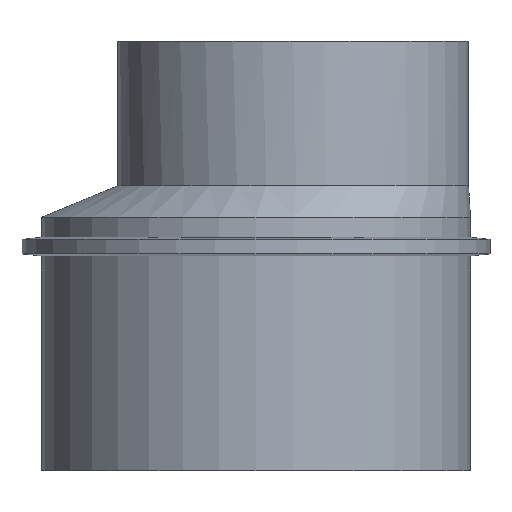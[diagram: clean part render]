
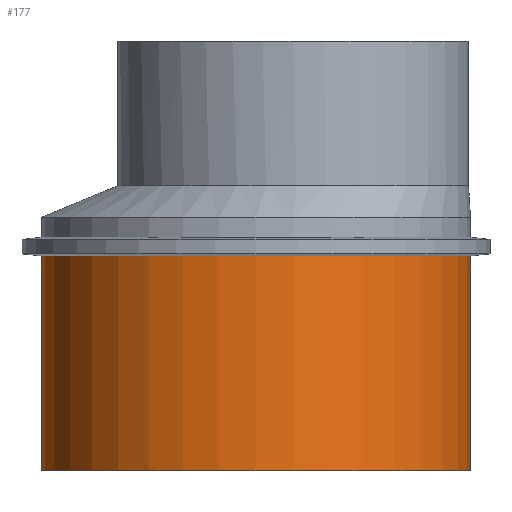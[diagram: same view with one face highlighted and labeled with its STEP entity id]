
A CAD part, front view. The second image highlights one B-rep face of the part: STEP entity #177.
In plain terms, the highlighted cylindrical face has radius 55 mm (diameter 110 mm), a full revolution.
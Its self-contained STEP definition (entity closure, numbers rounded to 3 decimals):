
#26=FACE_BOUND($,#57,.T.);
#40=FACE_OUTER_BOUND($,#56,.T.);
#56=EDGE_LOOP($,(#141));
#57=EDGE_LOOP($,(#142));
#66=CIRCLE($,#188,55.);
#78=CIRCLE($,#205,55.);
#82=VERTEX_POINT($,#271);
#94=VERTEX_POINT($,#340);
#98=EDGE_CURVE($,#82,#82,#66,.T.);
#112=EDGE_CURVE($,#94,#94,#78,.T.);
#141=ORIENTED_EDGE($,*,*,#98,.T.);
#142=ORIENTED_EDGE($,*,*,#112,.F.);
#154=CYLINDRICAL_SURFACE($,#204,55.);
#177=ADVANCED_FACE($,(#40,#26),#154,.T.);
#188=AXIS2_PLACEMENT_3D($,#272,#220,#221);
#204=AXIS2_PLACEMENT_3D($,#339,#252,#253);
#205=AXIS2_PLACEMENT_3D($,#341,#254,#255);
#220=DIRECTION('center_axis',(0.,0.,-1.));
#221=DIRECTION('ref_axis',(-1.,0.,0.));
#252=DIRECTION('center_axis',(0.,0.,1.));
#253=DIRECTION('ref_axis',(-1.,0.,0.));
#254=DIRECTION('center_axis',(0.,0.,-1.));
#255=DIRECTION('ref_axis',(-1.,0.,0.));
#271=CARTESIAN_POINT('',(-55.,0.,55.009));
#272=CARTESIAN_POINT('Origin',(0.,0.,55.009));
#339=CARTESIAN_POINT('Origin',(0.,0.,0.));
#340=CARTESIAN_POINT('',(55.,0.,0.));
#341=CARTESIAN_POINT('Origin',(0.,0.,0.));
